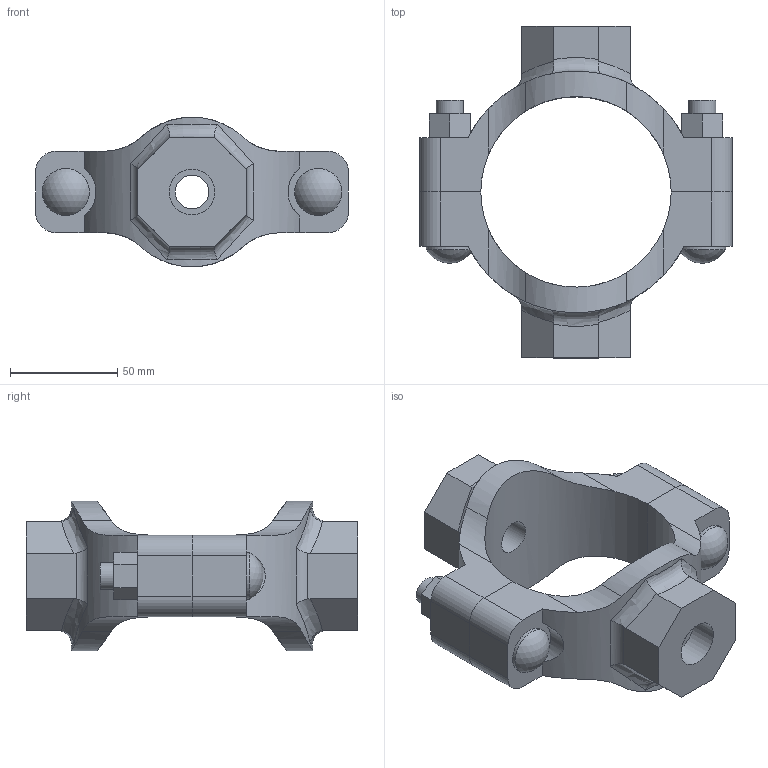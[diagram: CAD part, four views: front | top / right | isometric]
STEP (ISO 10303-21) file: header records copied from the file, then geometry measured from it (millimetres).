
FILE_DESCRIPTION(/* description */ ('VIC MECH-T BRANCH OUTLET CROSS STYLE 920N (THD)','CAx-IF Rec.Pracs.---Representation and Presentation of Product Manufacturing Information (PMI)---4.0---2014-10-13'),/* implementation_level */ '2;1');
FILE_NAME(/* name */ 'C:\Users\Vjadhav\AppData\Roaming\Autodesk\ApplicationPlugins\Back Up\Victaulic_IPS_Mechanical-Cross Outlet_Style 920N (FPT)\Victaulic_IPS_Mechanical-Cross Outlet_03.0x0.5x0.5 (80x15x15).stp',/* time_stamp */ '2020-08-06T18:57:02+05:00',/* author */ ('Vjadhav'),/* organization */ ('Victaulic'),/* preprocessor_version */ 'ST-DEVELOPER v17.2',/* originating_system */ 'Autodesk Inventor 2019',/* authorisation */ '');
FILE_SCHEMA (('AP242_MANAGED_MODEL_BASED_3D_ENGINEERING_MIM_LF { 1 0 10303 442 1 1 4 }'));
Length unit declared in the file: inch
Products named in the file (3): 920NT-03.0x0.5x0.5; 920NT-03.0x0.5; 920NT-03.0x0.5_1
Assembly tree (2 placements, depth 2):
  920NT-03.0x0.5x0.5
    920NT-03.0x0.5
    920NT-03.0x0.5_1
Bounding box: 146.05 x 154.94 x 69.84 mm (x, y, z)
Volume: 327840.8 mm3; surface area: 71203.8 mm2
Topology: 2 solids, 2 shells, 132 faces, 350 edges, 236 vertices
Faces by surface type: plane 68, cylinder 50, bspline 8, torus 4, sphere 2
Full cylindrical faces by diameter (mm): 12.7 x4, 15.799 x2, 21.336 x2, 21.982 x2
Entity records: 5070 total; most frequent: CARTESIAN_POINT 1557, ORIENTED_EDGE 700, DIRECTION 648, EDGE_CURVE 350, VERTEX_POINT 236, AXIS2_PLACEMENT_3D 231, LINE 186, VECTOR 186
